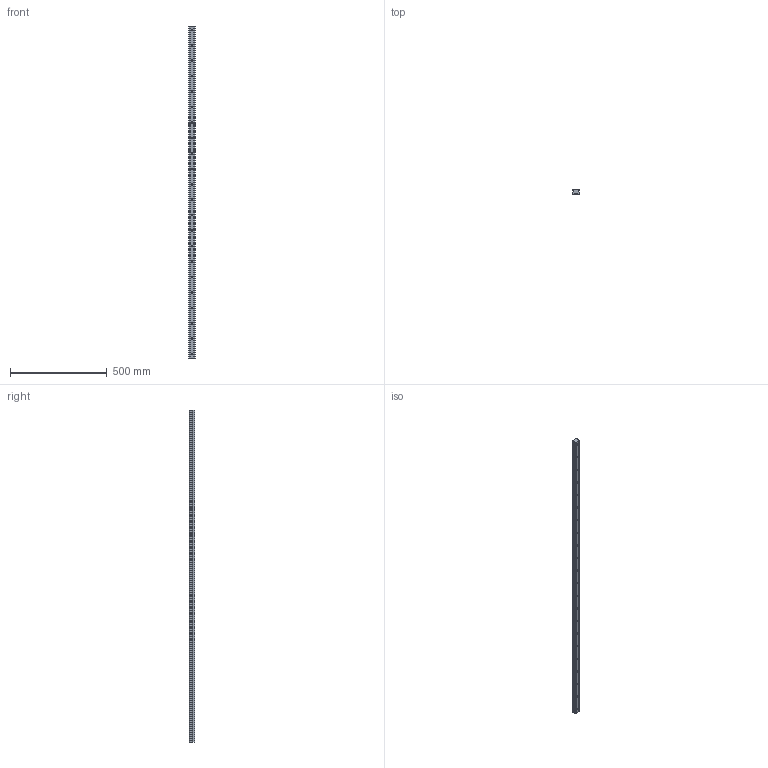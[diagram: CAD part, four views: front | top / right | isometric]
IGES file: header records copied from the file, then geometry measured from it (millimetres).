
Start section: SolidWorks IGES file using analytic representation for surfaces
Global section: file name: C:\Users\IanO\Desktop\Temp File\GENERAL\L1016_v2\L1016.RF35_v2\L1016.RF35_v2_20190612_IGES\L1016.RF35-1720.igs; native system: SolidWorks 2017; preprocessor: SolidWorks 2017; author: IanO; date: 190613.172829; units: millimetre
Bounding box: 34 x 26 x 1720 mm (x, y, z)
Surface area: 224813.9 mm2 (no closed solid volume)
Topology: 0 solids, 0 shells, 180 faces, 2808 edges, 2764 vertices
Faces by surface type: revolution 136, bspline 44
